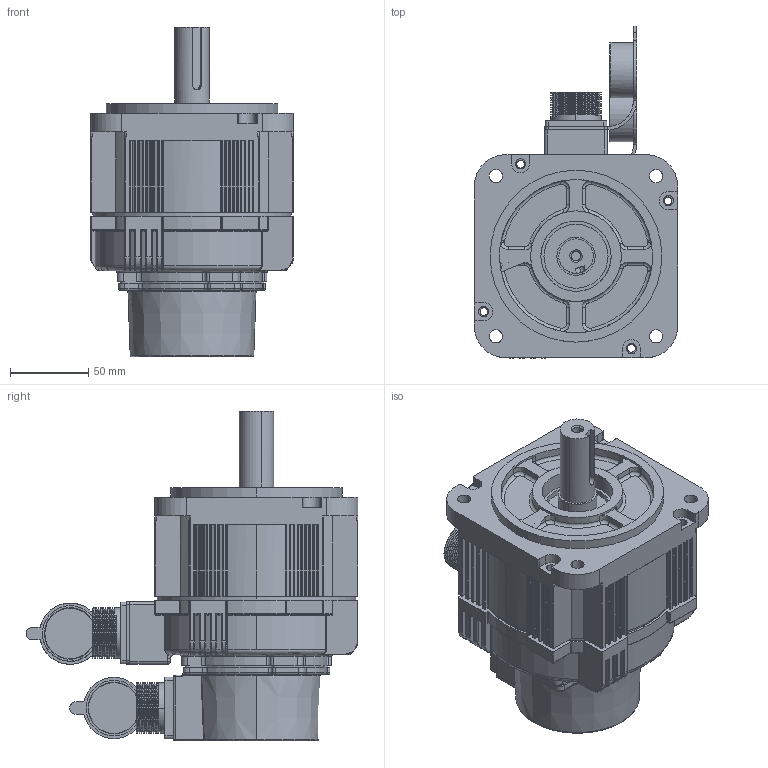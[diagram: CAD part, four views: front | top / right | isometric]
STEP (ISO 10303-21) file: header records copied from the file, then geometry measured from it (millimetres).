
FILE_DESCRIPTION(('CATIA V5 STEP Exchange'),'2;1');
FILE_NAME('F:\公司\常规伺服\130伺服电机图纸\130A\3D\雷赛低压\130A-04830DB 1.5kW外形图.stp','2022-08-22T06:08:48+00:00',('none'),('none'),'CATIA Version 5 Release 20 GA (IN-10)','CATIA V5 STEP AP203','none');
FILE_SCHEMA(('CONFIG_CONTROL_DESIGN'));
Length unit declared in the file: millimetre
Products named in the file (1): 130A-4.8装配体_AllCATPart
Bounding box: 130 x 212.49 x 211 mm (x, y, z)
Volume: 1036082.8 mm3; surface area: 304103 mm2
Topology: 1 solids, 4 shells, 2165 faces, 5442 edges, 3331 vertices
Faces by surface type: cylinder 956, plane 548, bspline 383, torus 183, sphere 69, cone 20, revolution 6
Entity records: 70671 total; most frequent: CARTESIAN_POINT 25793, ORIENTED_EDGE 10722, DIRECTION 6871, EDGE_CURVE 5361, VERTEX_POINT 3331, AXIS2_PLACEMENT_3D 3267, EDGE_LOOP 2325, ADVANCED_FACE 2165
